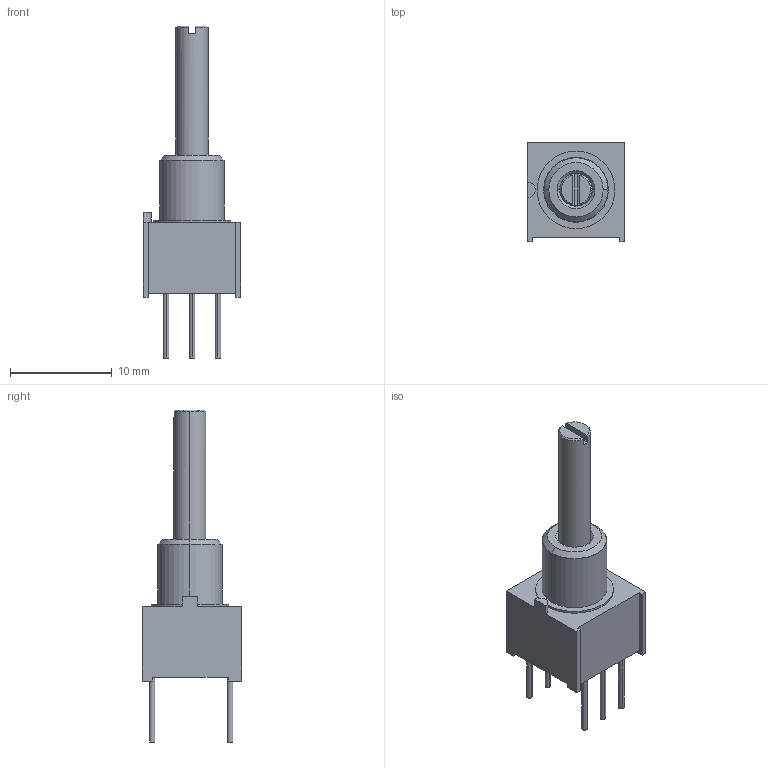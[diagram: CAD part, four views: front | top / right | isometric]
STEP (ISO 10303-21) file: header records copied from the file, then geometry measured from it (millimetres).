
FILE_DESCRIPTION(/* description */ ('Unknown'),/* implementation_level */ '2;1');
FILE_NAME(/* name */ 'P9AH1ABHS____',/* time_stamp */ '2026-05-20T16:41:19+02:00',/* author */ ('Unknown'),/* organization */ ('Unknown'),/* preprocessor_version */ 'ST-DEVELOPER v19.4',/* originating_system */ 'Solid Edge',/* authorisation */ 'Unknown');
FILE_SCHEMA (('AUTOMOTIVE_DESIGN {1 0 10303 214 3 1 1}'));
Length unit declared in the file: millimetre
Products named in the file (1): 3310H-013
Bounding box: 9.53 x 9.75 x 32.56 mm (x, y, z)
Volume: 939 mm3; surface area: 787.7 mm2
Topology: 1 solids, 1 shells, 65 faces, 156 edges, 104 vertices
Faces by surface type: plane 36, cylinder 23, cone 6
Entity records: 1962 total; most frequent: CARTESIAN_POINT 370, DIRECTION 334, ORIENTED_EDGE 312, EDGE_CURVE 156, AXIS2_PLACEMENT_3D 120, VERTEX_POINT 104, LINE 94, VECTOR 94
